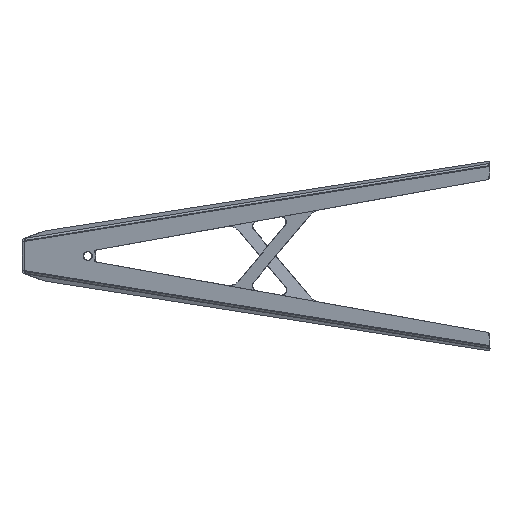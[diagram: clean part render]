
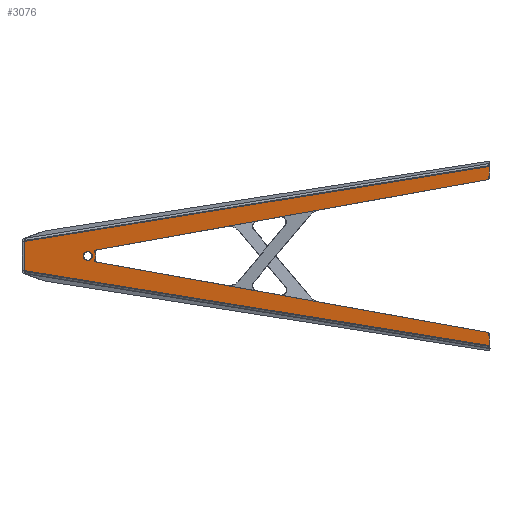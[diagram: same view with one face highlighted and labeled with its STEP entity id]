
A CAD part, left-side view. The second image highlights one B-rep face of the part: STEP entity #3076.
In plain terms, the highlighted planar face has unit normal (-0.982, 0.191, 0).
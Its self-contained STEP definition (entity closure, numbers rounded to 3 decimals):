
#14 = DIRECTION ( 'NONE',  ( 0.188, 0.967, -0.174 ) ) ;
#26 = AXIS2_PLACEMENT_3D ( 'NONE', #2474, #1473, #3933 ) ;
#31 = DIRECTION ( 'NONE',  ( 0., 0., 1. ) ) ;
#52 = EDGE_CURVE ( 'NONE', #2635, #4673, #2972, .T. ) ;
#133 = EDGE_CURVE ( 'NONE', #2490, #734, #4384, .T. ) ;
#144 = ORIENTED_EDGE ( 'NONE', *, *, #294, .F. ) ;
#219 = CARTESIAN_POINT ( 'NONE',  ( -244.923, -256.64, 44.331 ) ) ;
#280 = PLANE ( 'NONE',  #3885 ) ;
#286 = CARTESIAN_POINT ( 'NONE',  ( -201.896, -35.283, 0. ) ) ;
#294 = EDGE_CURVE ( 'NONE', #870, #2285, #494, .T. ) ;
#471 = CARTESIAN_POINT ( 'NONE',  ( -201.896, -35.283, 0. ) ) ;
#476 = ORIENTED_EDGE ( 'NONE', *, *, #4126, .T. ) ;
#494 = LINE ( 'NONE', #4409, #2898 ) ;
#517 = EDGE_CURVE ( 'NONE', #2285, #1889, #3571, .T. ) ;
#620 = CARTESIAN_POINT ( 'NONE',  ( -245.305, -258.603, 44.331 ) ) ;
#644 = VERTEX_POINT ( 'NONE', #620 ) ;
#688 = AXIS2_PLACEMENT_3D ( 'NONE', #471, #2304, #918 ) ;
#710 = CIRCLE ( 'NONE', #2654, 1. ) ;
#734 = VERTEX_POINT ( 'NONE', #4581 ) ;
#762 = CARTESIAN_POINT ( 'NONE',  ( -194.931, 0.547, 8.65 ) ) ;
#806 = CARTESIAN_POINT ( 'NONE',  ( -202.669, -39.259, 1.96 ) ) ;
#832 = VERTEX_POINT ( 'NONE', #806 ) ;
#839 = CARTESIAN_POINT ( 'NONE',  ( -245.305, -258.603, 50.446 ) ) ;
#862 = DIRECTION ( 'NONE',  ( 0., 0., -1. ) ) ;
#870 = VERTEX_POINT ( 'NONE', #1885 ) ;
#876 = CARTESIAN_POINT ( 'NONE',  ( -202.84, -40.142, -2.396 ) ) ;
#918 = DIRECTION ( 'NONE',  ( 0., 0., -1. ) ) ;
#935 = EDGE_CURVE ( 'NONE', #3067, #4667, #2260, .T. ) ;
#936 = VECTOR ( 'NONE', #14, 1000. ) ;
#953 = EDGE_CURVE ( 'NONE', #4673, #2635, #2711, .T. ) ;
#957 = VERTEX_POINT ( 'NONE', #3721 ) ;
#958 = CARTESIAN_POINT ( 'NONE',  ( -201.896, -35.283, 0. ) ) ;
#991 = CARTESIAN_POINT ( 'NONE',  ( -245.305, -258.603, 49.844 ) ) ;
#1020 = DIRECTION ( 'NONE',  ( 0., 0., -1. ) ) ;
#1051 = CARTESIAN_POINT ( 'NONE',  ( -201.896, -35.283, 0. ) ) ;
#1103 = DIRECTION ( 'NONE',  ( -0.982, 0.191, 0. ) ) ;
#1137 = ORIENTED_EDGE ( 'NONE', *, *, #1369, .F. ) ;
#1162 = CARTESIAN_POINT ( 'NONE',  ( -245.305, -258.603, -49.844 ) ) ;
#1230 = CIRCLE ( 'NONE', #4177, 0.75 ) ;
#1290 = EDGE_LOOP ( 'NONE', ( #3980, #1494 ) ) ;
#1327 = LINE ( 'NONE', #2710, #4624 ) ;
#1337 = DIRECTION ( 'NONE',  ( 0., 0., -1. ) ) ;
#1369 = EDGE_CURVE ( 'NONE', #4329, #644, #1552, .T. ) ;
#1408 = EDGE_LOOP ( 'NONE', ( #1623, #2422, #2235, #3077, #2224, #144, #3271, #476, #2394, #3052, #3163, #1137, #2364, #2613 ) ) ;
#1450 = AXIS2_PLACEMENT_3D ( 'NONE', #219, #1568, #3394 ) ;
#1473 = DIRECTION ( 'NONE',  ( -0.982, 0.191, 0. ) ) ;
#1494 = ORIENTED_EDGE ( 'NONE', *, *, #953, .F. ) ;
#1531 = CIRCLE ( 'NONE', #26, 0.75 ) ;
#1552 = LINE ( 'NONE', #839, #3327 ) ;
#1568 = DIRECTION ( 'NONE',  ( 0.982, -0.191, 0. ) ) ;
#1623 = ORIENTED_EDGE ( 'NONE', *, *, #133, .F. ) ;
#1687 = FACE_OUTER_BOUND ( 'NONE', #1408, .T. ) ;
#1863 = CARTESIAN_POINT ( 'NONE',  ( -201.896, -35.283, 2.5 ) ) ;
#1885 = CARTESIAN_POINT ( 'NONE',  ( -202.807, -39.972, -3.381 ) ) ;
#1889 = VERTEX_POINT ( 'NONE', #4036 ) ;
#1952 = EDGE_CURVE ( 'NONE', #644, #957, #3185, .T. ) ;
#2118 = DIRECTION ( 'NONE',  ( 0., 0., -1. ) ) ;
#2224 = ORIENTED_EDGE ( 'NONE', *, *, #517, .F. ) ;
#2235 = ORIENTED_EDGE ( 'NONE', *, *, #935, .T. ) ;
#2260 = LINE ( 'NONE', #2655, #2873 ) ;
#2285 = VERTEX_POINT ( 'NONE', #3511 ) ;
#2304 = DIRECTION ( 'NONE',  ( -0.982, 0.191, 0. ) ) ;
#2364 = ORIENTED_EDGE ( 'NONE', *, *, #2442, .T. ) ;
#2370 = CARTESIAN_POINT ( 'NONE',  ( -202.807, -39.972, 3.381 ) ) ;
#2394 = ORIENTED_EDGE ( 'NONE', *, *, #2910, .T. ) ;
#2422 = ORIENTED_EDGE ( 'NONE', *, *, #2587, .F. ) ;
#2423 = DIRECTION ( 'NONE',  ( 0.188, 0.97, -0.156 ) ) ;
#2426 = CARTESIAN_POINT ( 'NONE',  ( -195.031, 0.032, 8.114 ) ) ;
#2442 = EDGE_CURVE ( 'NONE', #4329, #3998, #2778, .T. ) ;
#2448 = DIRECTION ( 'NONE',  ( -0.982, 0.191, 0. ) ) ;
#2470 = CARTESIAN_POINT ( 'NONE',  ( -195.025, 0.067, 0. ) ) ;
#2474 = CARTESIAN_POINT ( 'NONE',  ( -194.931, 0.547, -8.65 ) ) ;
#2490 = VERTEX_POINT ( 'NONE', #3499 ) ;
#2524 = CARTESIAN_POINT ( 'NONE',  ( -201.896, -35.283, -2.5 ) ) ;
#2587 = EDGE_CURVE ( 'NONE', #3067, #2490, #1531, .T. ) ;
#2613 = ORIENTED_EDGE ( 'NONE', *, *, #2641, .F. ) ;
#2635 = VERTEX_POINT ( 'NONE', #2524 ) ;
#2641 = EDGE_CURVE ( 'NONE', #734, #3998, #1230, .T. ) ;
#2654 = AXIS2_PLACEMENT_3D ( 'NONE', #3979, #3622, #2118 ) ;
#2655 = CARTESIAN_POINT ( 'NONE',  ( -201.489, -33.188, -13.474 ) ) ;
#2710 = CARTESIAN_POINT ( 'NONE',  ( -245.305, -258.603, -50.446 ) ) ;
#2711 = CIRCLE ( 'NONE', #688, 2.5 ) ;
#2741 = CARTESIAN_POINT ( 'NONE',  ( -202.669, -39.259, -1.96 ) ) ;
#2778 = LINE ( 'NONE', #3521, #4338 ) ;
#2873 = VECTOR ( 'NONE', #3764, 1000. ) ;
#2898 = VECTOR ( 'NONE', #3383, 1000. ) ;
#2910 = EDGE_CURVE ( 'NONE', #832, #4312, #710, .T. ) ;
#2916 = LINE ( 'NONE', #3255, #936 ) ;
#2972 = CIRCLE ( 'NONE', #3060, 2.5 ) ;
#3028 = CIRCLE ( 'NONE', #4331, 4.5 ) ;
#3052 = ORIENTED_EDGE ( 'NONE', *, *, #3066, .F. ) ;
#3060 = AXIS2_PLACEMENT_3D ( 'NONE', #286, #4214, #1020 ) ;
#3066 = EDGE_CURVE ( 'NONE', #957, #4312, #2916, .T. ) ;
#3067 = VERTEX_POINT ( 'NONE', #3137 ) ;
#3076 = ADVANCED_FACE ( 'NONE', ( #1687, #4208 ), #280, .F. ) ;
#3077 = ORIENTED_EDGE ( 'NONE', *, *, #3951, .F. ) ;
#3137 = CARTESIAN_POINT ( 'NONE',  ( -195.031, 0.032, -8.114 ) ) ;
#3163 = ORIENTED_EDGE ( 'NONE', *, *, #1952, .F. ) ;
#3185 = CIRCLE ( 'NONE', #1450, 2. ) ;
#3255 = CARTESIAN_POINT ( 'NONE',  ( -201.813, -34.857, 2.462 ) ) ;
#3266 = CIRCLE ( 'NONE', #4546, 1. ) ;
#3271 = ORIENTED_EDGE ( 'NONE', *, *, #4222, .T. ) ;
#3327 = VECTOR ( 'NONE', #4063, 1000. ) ;
#3371 = VECTOR ( 'NONE', #31, 1000. ) ;
#3383 = DIRECTION ( 'NONE',  ( -0.188, -0.967, -0.174 ) ) ;
#3388 = DIRECTION ( 'NONE',  ( 0., 0., -1. ) ) ;
#3394 = DIRECTION ( 'NONE',  ( 0., 0., 1. ) ) ;
#3499 = CARTESIAN_POINT ( 'NONE',  ( -195.025, 0.067, -8.081 ) ) ;
#3511 = CARTESIAN_POINT ( 'NONE',  ( -244.99, -256.981, -42.362 ) ) ;
#3521 = CARTESIAN_POINT ( 'NONE',  ( -201.489, -33.188, 13.474 ) ) ;
#3571 = CIRCLE ( 'NONE', #4026, 2. ) ;
#3581 = DIRECTION ( 'NONE',  ( 0., 0., -1. ) ) ;
#3584 = VERTEX_POINT ( 'NONE', #2741 ) ;
#3622 = DIRECTION ( 'NONE',  ( 0.982, -0.191, 0. ) ) ;
#3679 = DIRECTION ( 'NONE',  ( 0.982, -0.191, 0. ) ) ;
#3708 = DIRECTION ( 'NONE',  ( 0.982, -0.191, 0. ) ) ;
#3721 = CARTESIAN_POINT ( 'NONE',  ( -244.99, -256.981, 42.362 ) ) ;
#3764 = DIRECTION ( 'NONE',  ( -0.188, -0.97, -0.156 ) ) ;
#3820 = DIRECTION ( 'NONE',  ( 0., 0., -1. ) ) ;
#3885 = AXIS2_PLACEMENT_3D ( 'NONE', #958, #3988, #1337 ) ;
#3933 = DIRECTION ( 'NONE',  ( 0., 0., 1. ) ) ;
#3935 = DIRECTION ( 'NONE',  ( 0., 0., -1. ) ) ;
#3951 = EDGE_CURVE ( 'NONE', #1889, #4667, #1327, .T. ) ;
#3979 = CARTESIAN_POINT ( 'NONE',  ( -202.84, -40.142, 2.396 ) ) ;
#3980 = ORIENTED_EDGE ( 'NONE', *, *, #52, .F. ) ;
#3988 = DIRECTION ( 'NONE',  ( 0.982, -0.191, 0. ) ) ;
#3998 = VERTEX_POINT ( 'NONE', #2426 ) ;
#4026 = AXIS2_PLACEMENT_3D ( 'NONE', #4468, #3708, #862 ) ;
#4036 = CARTESIAN_POINT ( 'NONE',  ( -245.305, -258.603, -44.331 ) ) ;
#4063 = DIRECTION ( 'NONE',  ( 0., 0., -1. ) ) ;
#4126 = EDGE_CURVE ( 'NONE', #3584, #832, #3028, .T. ) ;
#4177 = AXIS2_PLACEMENT_3D ( 'NONE', #762, #2448, #3581 ) ;
#4208 = FACE_BOUND ( 'NONE', #1290, .T. ) ;
#4214 = DIRECTION ( 'NONE',  ( -0.982, 0.191, 0. ) ) ;
#4222 = EDGE_CURVE ( 'NONE', #870, #3584, #3266, .T. ) ;
#4312 = VERTEX_POINT ( 'NONE', #2370 ) ;
#4329 = VERTEX_POINT ( 'NONE', #991 ) ;
#4331 = AXIS2_PLACEMENT_3D ( 'NONE', #1051, #1103, #3935 ) ;
#4338 = VECTOR ( 'NONE', #2423, 1000. ) ;
#4384 = LINE ( 'NONE', #2470, #3371 ) ;
#4409 = CARTESIAN_POINT ( 'NONE',  ( -201.813, -34.857, -2.462 ) ) ;
#4468 = CARTESIAN_POINT ( 'NONE',  ( -244.923, -256.64, -44.331 ) ) ;
#4546 = AXIS2_PLACEMENT_3D ( 'NONE', #876, #3679, #3388 ) ;
#4581 = CARTESIAN_POINT ( 'NONE',  ( -195.025, 0.067, 8.081 ) ) ;
#4624 = VECTOR ( 'NONE', #3820, 1000. ) ;
#4667 = VERTEX_POINT ( 'NONE', #1162 ) ;
#4673 = VERTEX_POINT ( 'NONE', #1863 ) ;
